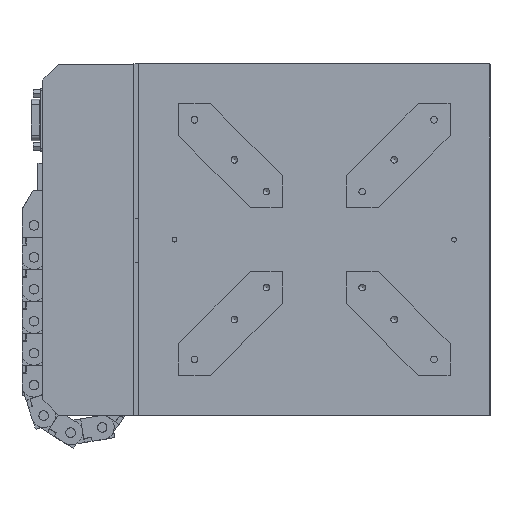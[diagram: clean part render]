
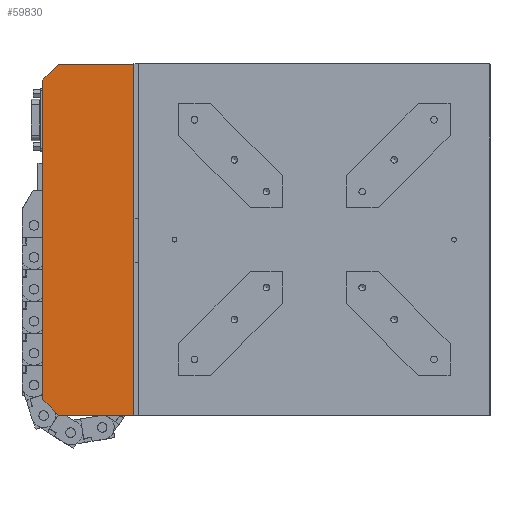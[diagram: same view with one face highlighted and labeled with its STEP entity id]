
A CAD part, top view. The second image highlights one B-rep face of the part: STEP entity #59830.
In plain terms, the highlighted planar face has unit normal (0, 0, 1).
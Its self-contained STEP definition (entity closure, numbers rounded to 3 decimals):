
#6354=FACE_OUTER_BOUND('',#9901,.T.);
#9901=EDGE_LOOP('',(#49290,#49291,#49292,#49293,#49294,#49295));
#15120=LINE('',#100697,#20591);
#15124=LINE('',#100705,#20595);
#15127=LINE('',#100711,#20598);
#15128=LINE('',#100713,#20599);
#15129=LINE('',#100715,#20600);
#15130=LINE('',#100716,#20601);
#20591=VECTOR('',#77189,10.);
#20595=VECTOR('',#77195,10.);
#20598=VECTOR('',#77200,10.);
#20599=VECTOR('',#77201,10.);
#20600=VECTOR('',#77202,10.);
#20601=VECTOR('',#77203,10.);
#26679=VERTEX_POINT('',#100695);
#26680=VERTEX_POINT('',#100696);
#26683=VERTEX_POINT('',#100704);
#26685=VERTEX_POINT('',#100710);
#26686=VERTEX_POINT('',#100712);
#26687=VERTEX_POINT('',#100714);
#34400=EDGE_CURVE('',#26679,#26680,#15120,.T.);
#34404=EDGE_CURVE('',#26683,#26680,#15124,.T.);
#34407=EDGE_CURVE('',#26679,#26685,#15127,.T.);
#34408=EDGE_CURVE('',#26686,#26685,#15128,.T.);
#34409=EDGE_CURVE('',#26687,#26686,#15129,.T.);
#34410=EDGE_CURVE('',#26683,#26687,#15130,.T.);
#49290=ORIENTED_EDGE('',*,*,#34400,.F.);
#49291=ORIENTED_EDGE('',*,*,#34407,.T.);
#49292=ORIENTED_EDGE('',*,*,#34408,.F.);
#49293=ORIENTED_EDGE('',*,*,#34409,.F.);
#49294=ORIENTED_EDGE('',*,*,#34410,.F.);
#49295=ORIENTED_EDGE('',*,*,#34404,.T.);
#53787=PLANE('',#64285);
#59830=ADVANCED_FACE('',(#6354),#53787,.T.);
#64285=AXIS2_PLACEMENT_3D('',#100709,#77198,#77199);
#77189=DIRECTION('',(-0.707,0.707,0.));
#77195=DIRECTION('',(0.,-1.,0.));
#77198=DIRECTION('center_axis',(0.,0.,
1.));
#77199=DIRECTION('ref_axis',(0.,1.,0.));
#77200=DIRECTION('',(1.,0.,0.));
#77201=DIRECTION('',(0.,-1.,0.));
#77202=DIRECTION('',(1.,0.,0.));
#77203=DIRECTION('',(0.707,0.707,0.));
#100695=CARTESIAN_POINT('',(-155.,-105.,39.5));
#100696=CARTESIAN_POINT('',(-165.,-95.,39.5));
#100697=CARTESIAN_POINT('',(-215.,-45.,39.5));
#100704=CARTESIAN_POINT('',(-165.,105.,39.5));
#100705=CARTESIAN_POINT('',(-165.,115.,39.5));
#100709=CARTESIAN_POINT('Origin',(-165.,115.,39.5));
#100710=CARTESIAN_POINT('',(-108.,-105.,39.5));
#100711=CARTESIAN_POINT('',(-165.,-105.,39.5));
#100712=CARTESIAN_POINT('',(-108.,115.,39.5));
#100713=CARTESIAN_POINT('',(-108.,115.,39.5));
#100714=CARTESIAN_POINT('',(-155.,115.,39.5));
#100715=CARTESIAN_POINT('',(-165.,115.,39.5));
#100716=CARTESIAN_POINT('',(-160.,110.,39.5));
